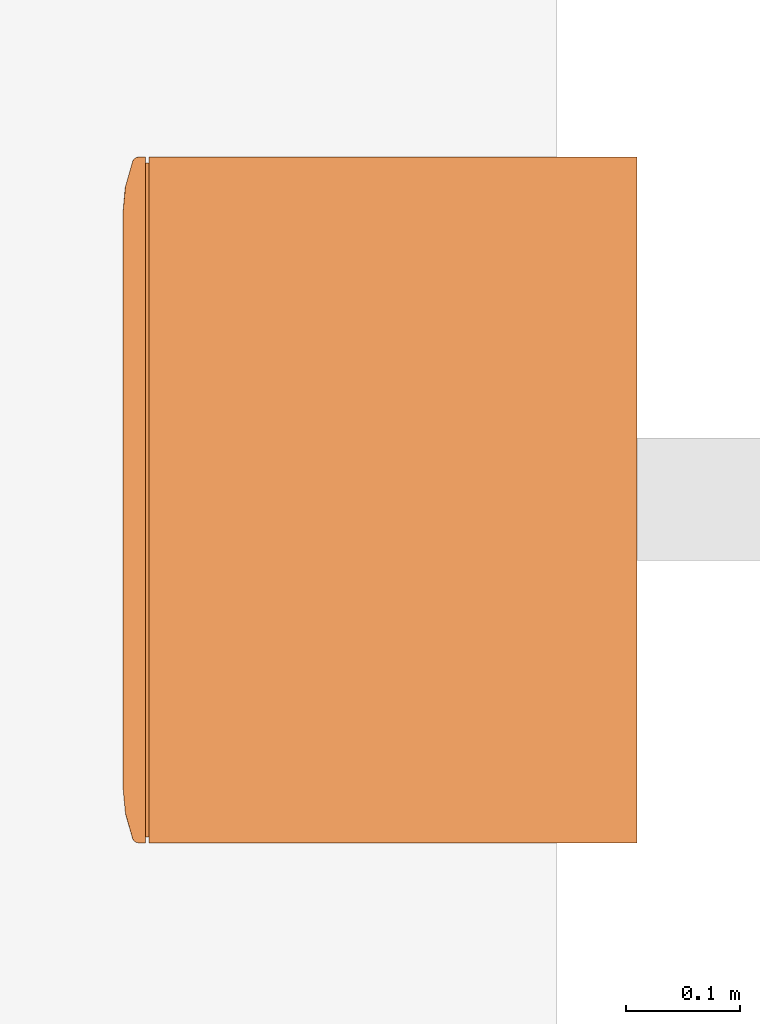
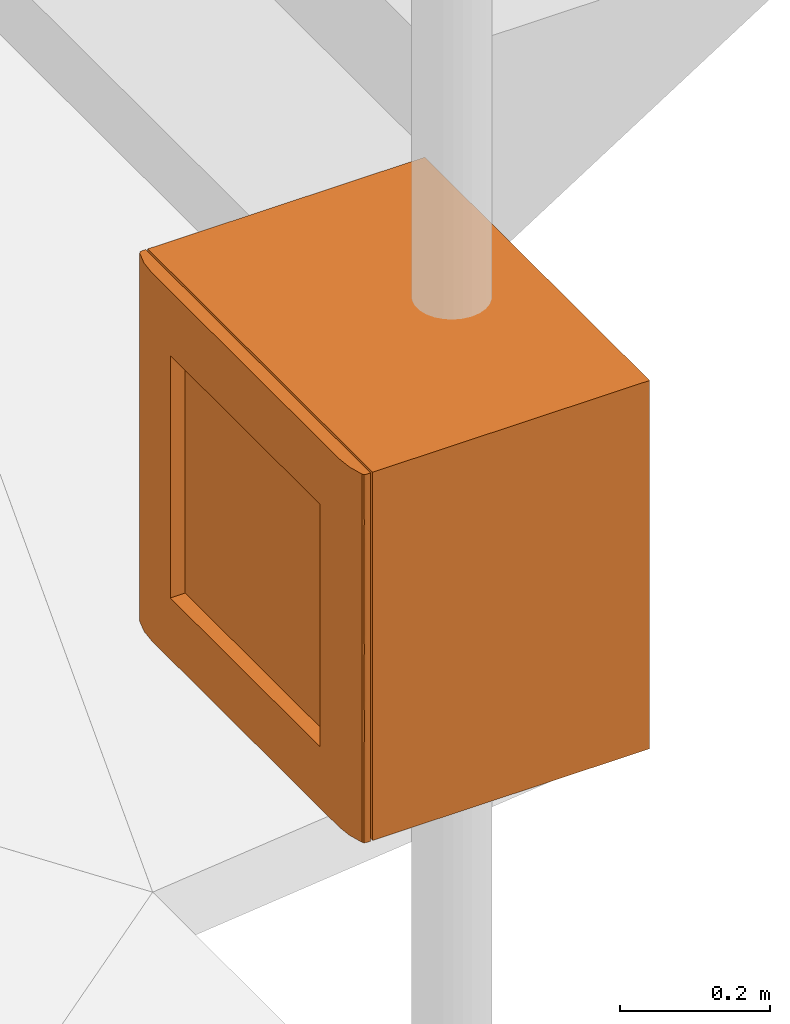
# One storey, part 6 of 6: 1 proxy.
"""IFC2X3 building model written with IfcOpenShell, lengths in metres."""

from ifc_helpers import new_model, entity, si_unit, converted_unit, derived_unit, direction, frame, origin, place, context, subcontext, project, spatial, faceted_brep, source, transform, mapped, material, type_object, type_shapes, element, save


model = new_model("IFC2X3")

# Units and contexts
model_context = context("Model", 3, precision=1e-05, world=origin(), true_north=direction((6.12303176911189e-17, 1.0)))
body_context = subcontext(model_context, "Body", "Model", "MODEL_VIEW")
ifc_project = project(units=[si_unit("LENGTHUNIT", "METRE"), si_unit("AREAUNIT", "SQUARE_METRE"), si_unit("VOLUMEUNIT", "CUBIC_METRE"), converted_unit("PLANEANGLEUNIT", "DEGREE", entity("IfcRatioMeasure", 0.0174532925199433), si_unit("PLANEANGLEUNIT", "RADIAN"), dimensions=[0, 0, 0, 0, 0, 0, 0]), si_unit("MASSUNIT", "GRAM", prefix="KILO"), derived_unit("MASSDENSITYUNIT", [(si_unit("MASSUNIT", "GRAM", prefix="KILO"), 1), (si_unit("LENGTHUNIT", "METRE"), -3)]), derived_unit("MOMENTOFINERTIAUNIT", [(si_unit("LENGTHUNIT", "METRE"), 4)]), si_unit("TIMEUNIT", "SECOND"), si_unit("FREQUENCYUNIT", "HERTZ"), si_unit("THERMODYNAMICTEMPERATUREUNIT", "DEGREE_CELSIUS"), derived_unit("THERMALTRANSMITTANCEUNIT", [(si_unit("MASSUNIT", "GRAM", prefix="KILO"), 1), (si_unit("THERMODYNAMICTEMPERATUREUNIT", "KELVIN"), -1), (si_unit("TIMEUNIT", "SECOND"), -3)]), derived_unit("VOLUMETRICFLOWRATEUNIT", [(si_unit("LENGTHUNIT", "METRE"), 3), (si_unit("TIMEUNIT", "SECOND"), -1)]), si_unit("ELECTRICCURRENTUNIT", "AMPERE"), si_unit("ELECTRICVOLTAGEUNIT", "VOLT"), si_unit("POWERUNIT", "WATT"), si_unit("FORCEUNIT", "NEWTON", prefix="KILO"), si_unit("ILLUMINANCEUNIT", "LUX"), si_unit("LUMINOUSFLUXUNIT", "LUMEN"), si_unit("LUMINOUSINTENSITYUNIT", "CANDELA"), derived_unit("USERDEFINED", [(si_unit("MASSUNIT", "GRAM", prefix="KILO"), -1), (si_unit("LENGTHUNIT", "METRE"), -2), (si_unit("TIMEUNIT", "SECOND"), 3), (si_unit("LUMINOUSFLUXUNIT", "LUMEN"), 1)]), derived_unit("LINEARVELOCITYUNIT", [(si_unit("LENGTHUNIT", "METRE"), 1), (si_unit("TIMEUNIT", "SECOND"), -1)]), si_unit("PRESSUREUNIT", "PASCAL"), derived_unit("USERDEFINED", [(si_unit("LENGTHUNIT", "METRE"), -2), (si_unit("MASSUNIT", "GRAM", prefix="KILO"), 1), (si_unit("TIMEUNIT", "SECOND"), -2)]), derived_unit("LINEARFORCEUNIT", [(si_unit("MASSUNIT", "GRAM", prefix="KILO"), 1), (si_unit("LENGTHUNIT", "METRE"), 1), (si_unit("TIMEUNIT", "SECOND"), -2), (si_unit("LENGTHUNIT", "METRE"), -1)]), derived_unit("PLANARFORCEUNIT", [(si_unit("MASSUNIT", "GRAM", prefix="KILO"), 1), (si_unit("LENGTHUNIT", "METRE"), 1), (si_unit("TIMEUNIT", "SECOND"), -2), (si_unit("LENGTHUNIT", "METRE"), -2)])], contexts=[model_context])

# Site, building, storey
site_placement = place(None, origin())
site = spatial("IfcSite", under=ifc_project, at=site_placement, Name="Default", CompositionType="ELEMENT")
building_placement = place(site_placement, origin())
building = spatial("IfcBuilding", under=site, at=building_placement, CompositionType="ELEMENT")
storey_placement = place(building_placement, origin())
storey = spatial("IfcBuildingStorey", under=building, at=storey_placement, Name="Niveau 00", CompositionType="ELEMENT", Elevation=0.0)

# Proxy
ifc_material = material(Name="rouge")
building_element_proxy_type = type_object("IfcBuildingElementProxyType", Name="GAZ:#01", PredefinedType="NOTDEFINED", material=ifc_material)
shared_shape = source(origin(), body_context, "Body", "Brep", [
    faceted_brep([(0.3, 0.0, 0.6), (0.3, -0.427000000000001, 0.6), (0.3, -0.427000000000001, 0.0), (0.3, 0.0, 0.0), (0.3, -0.430000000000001, 0.6), (0.3, -0.436619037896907, 0.6), (0.3, -0.436619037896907, 0.580480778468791), (0.3, -0.436619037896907, 0.560961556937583), (0.3, -0.436619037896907, 0.541442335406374), (0.3, -0.436619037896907, 0.521923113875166), (0.3, -0.436619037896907, 0.502403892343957), (0.3, -0.436619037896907, 0.482884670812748), (0.3, -0.436619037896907, 0.46336544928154), (0.3, -0.436619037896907, 0.443846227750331), (0.3, -0.436619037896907, 0.407884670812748), (0.3, -0.436619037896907, 0.371923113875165), (0.3, -0.436619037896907, 0.335961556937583), (0.3, -0.436619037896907, 0.3), (0.3, -0.436619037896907, 0.2625), (0.3, -0.436619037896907, 0.225), (0.3, -0.436619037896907, 0.1875), (0.3, -0.436619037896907, 0.15), (0.3, -0.436619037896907, 0.1125), (0.3, -0.436619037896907, 0.075), (0.3, -0.436619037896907, 0.0390384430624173), (0.3, -0.436619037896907, 0.0195192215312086), (0.3, -0.436619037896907, 0.0), (0.3, -0.430000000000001, 0.0), (-0.3, -0.4366190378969, 0.6), (-0.3, -0.429999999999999, 0.6), (-0.3, -0.429999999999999, 0.0), (-0.3, -0.4366190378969, 0.0), (-0.299999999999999, -0.4366190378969, 0.0195191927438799), (-0.299999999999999, -0.4366190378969, 0.0390385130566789), (-0.299999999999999, -0.4366190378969, 0.0585577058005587), (-0.299999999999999, -0.4366190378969, 0.0780768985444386), (-0.299999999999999, -0.4366190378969, 0.0975960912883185), (-0.299999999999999, -0.4366190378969, 0.117115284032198), (-0.299999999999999, -0.4366190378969, 0.136634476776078), (-0.299999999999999, -0.4366190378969, 0.156153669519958), (-0.299999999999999, -0.4366190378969, 0.175672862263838), (-0.299999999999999, -0.4366190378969, 0.195192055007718), (-0.299999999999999, -0.4366190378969, 0.214711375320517), (-0.299999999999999, -0.4366190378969, 0.234230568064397), (-0.299999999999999, -0.4366190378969, 0.253749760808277), (-0.299999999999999, -0.4366190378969, 0.273269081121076), (-0.299999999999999, -0.4366190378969, 0.292788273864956), (-0.299999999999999, -0.4366190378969, 0.312307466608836), (-0.299999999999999, -0.4366190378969, 0.348269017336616), (-0.299999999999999, -0.4366190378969, 0.384230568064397), (-0.299999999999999, -0.4366190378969, 0.420192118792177), (-0.299999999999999, -0.4366190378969, 0.456153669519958), (-0.299999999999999, -0.4366190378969, 0.492115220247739), (-0.299999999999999, -0.4366190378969, 0.52807677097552), (-0.299999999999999, -0.4366190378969, 0.564038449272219), (-0.3, -0.426999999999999, 0.6), (-0.3, 0.0, 0.6), (-0.3, 0.0, 0.0), (-0.3, -0.426999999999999, 0.0), (0.299123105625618, -0.439447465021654, 0.6), (-0.299123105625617, -0.439447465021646, 0.6), (-0.296799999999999, -0.441283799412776, 0.6), (-0.273802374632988, -0.447802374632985, 0.6), (-0.249999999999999, -0.449999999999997, 0.6), (0.249999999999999, -0.449999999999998, 0.6), (0.273802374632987, -0.447802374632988, 0.6), (0.296799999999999, -0.441283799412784, 0.6), (0.299123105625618, -0.439447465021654, 0.0), (0.296799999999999, -0.441283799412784, 0.0), (0.273802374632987, -0.447802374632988, 0.0), (0.25, -0.449999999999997, 0.0), (-0.249999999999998, -0.449999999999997, 0.0), (-0.273802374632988, -0.447802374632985, 0.0), (-0.296799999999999, -0.441283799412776, 0.0), (-0.299123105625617, -0.439447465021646, 0.0), (-0.200000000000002, -0.449999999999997, 0.495000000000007), (0.199999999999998, -0.449999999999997, 0.495000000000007), (-0.249999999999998, -0.449999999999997, 0.400942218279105), (-0.249999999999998, -0.449999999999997, 0.20188443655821), (-0.200000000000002, -0.449999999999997, 0.1), (0.199999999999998, -0.449999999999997, 0.1), (0.25, -0.449999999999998, 0.299999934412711), (-0.296799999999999, -0.441283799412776, 0.580480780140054), (-0.296799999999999, -0.441283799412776, 0.560961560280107), (-0.296799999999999, -0.441283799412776, 0.541442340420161), (-0.296799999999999, -0.441283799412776, 0.521923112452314), (-0.296799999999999, -0.441283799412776, 0.485961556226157), (-0.296799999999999, -0.441283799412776, 0.45), (-0.296799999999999, -0.441283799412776, 0.431250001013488), (-0.296799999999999, -0.441283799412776, 0.412499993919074), (-0.296799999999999, -0.441283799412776, 0.37499999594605), (-0.296799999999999, -0.441283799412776, 0.337499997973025), (-0.296799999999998, -0.441283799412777, 0.3), (-0.296799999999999, -0.441283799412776, 0.262500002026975), (-0.296799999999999, -0.441283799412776, 0.22500000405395), (-0.296799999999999, -0.441283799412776, 0.206250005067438), (-0.296799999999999, -0.441283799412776, 0.187500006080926), (-0.296799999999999, -0.441283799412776, 0.15), (-0.296799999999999, -0.441283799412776, 0.132019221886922), (-0.296799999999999, -0.441283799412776, 0.114038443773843), (-0.296799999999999, -0.441283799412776, 0.078076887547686), (-0.296799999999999, -0.441283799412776, 0.0585576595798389), (-0.296799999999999, -0.441283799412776, 0.0390384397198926), (-0.296799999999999, -0.441283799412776, 0.0195192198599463), (-0.271791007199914, -0.448160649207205, 0.301413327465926), (-0.299217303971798, -0.439304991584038, 0.25020461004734), (-0.299209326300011, -0.439317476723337, 0.224471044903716), (-0.299158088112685, -0.439395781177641, 0.52191271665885), (-0.299030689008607, -0.439577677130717, 0.496937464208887), (-0.299203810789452, -0.439326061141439, 0.302547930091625), (-0.299243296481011, -0.439263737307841, 0.327556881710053), (-0.2990755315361, -0.439515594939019, 0.570721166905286), (-0.299285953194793, -0.439194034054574, 0.474134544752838), (-0.299073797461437, -0.43951803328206, 0.543722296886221), (-0.299123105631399, -0.439447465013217, 0.0292788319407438), (-0.29912310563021, -0.43944746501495, 0.0576010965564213), (-0.299123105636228, -0.439447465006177, 0.0790126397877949), (-0.299024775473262, -0.439585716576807, 0.272680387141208), (-0.299042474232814, -0.439561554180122, 0.421874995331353), (-0.299000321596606, -0.439618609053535, 0.396097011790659), (-0.299178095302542, -0.439365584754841, 0.148197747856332), (-0.29933700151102, -0.439107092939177, 0.127770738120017), (-0.299031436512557, -0.439576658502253, 0.170288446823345), (-0.299042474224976, -0.43956155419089, 0.196874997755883), (-0.299128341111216, -0.439439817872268, 0.452618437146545), (-0.298958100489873, -0.43967410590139, 0.350810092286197), (-0.299224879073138, -0.439293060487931, 0.373516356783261), (-0.299169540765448, -0.43937855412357, 0.107355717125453), (0.275807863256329, -0.44741253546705, 0.3014133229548), (0.296799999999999, -0.441283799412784, 0.400942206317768), (0.296799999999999, -0.441283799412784, 0.404807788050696), (0.296799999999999, -0.441283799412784, 0.424327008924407), (0.296799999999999, -0.441283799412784, 0.443846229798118), (0.296799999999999, -0.441283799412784, 0.463365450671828), (0.296799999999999, -0.441283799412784, 0.482884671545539), (0.296799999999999, -0.441283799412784, 0.50240389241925), (0.296799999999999, -0.441283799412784, 0.521923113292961), (0.296799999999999, -0.441283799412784, 0.541442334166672), (0.296799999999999, -0.441283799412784, 0.560961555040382), (0.296799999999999, -0.441283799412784, 0.580480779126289), (0.296799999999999, -0.441283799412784, 0.0195192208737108), (0.296799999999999, -0.441283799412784, 0.0390384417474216), (0.296799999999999, -0.441283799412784, 0.0585576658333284), (0.296799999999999, -0.441283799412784, 0.0780768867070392), (0.296799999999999, -0.441283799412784, 0.110961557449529), (0.296799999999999, -0.441283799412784, 0.14384622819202), (0.296799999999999, -0.441283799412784, 0.179807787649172), (0.296799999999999, -0.441283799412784, 0.197788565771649), (0.296799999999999, -0.441283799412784, 0.201884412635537), (0.296799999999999, -0.441283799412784, 0.215769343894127), (0.296799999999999, -0.441283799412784, 0.251730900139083), (0.296799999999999, -0.441283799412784, 0.269711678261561), (0.296799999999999, -0.441283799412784, 0.287692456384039), (0.296799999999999, -0.441283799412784, 0.30721167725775), (0.296799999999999, -0.441283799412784, 0.326730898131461), (0.296799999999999, -0.441283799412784, 0.346250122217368), (0.296799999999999, -0.441283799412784, 0.365769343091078), (0.296799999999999, -0.441283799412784, 0.385288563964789), (0.299186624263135, -0.439352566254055, 0.395048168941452), (0.299123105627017, -0.439447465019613, 0.425865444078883), (0.299074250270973, -0.439517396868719, 0.373066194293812), (0.299123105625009, -0.439447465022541, 0.0292788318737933), (0.299144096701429, -0.439416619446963, 0.0570192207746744), (0.299097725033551, -0.439484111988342, 0.149128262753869), (0.299077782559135, -0.439512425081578, 0.127403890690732), (0.298962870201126, -0.439667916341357, 0.340334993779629), (0.299123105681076, -0.439447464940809, 0.570721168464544), (0.2991231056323, -0.439447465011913, 0.502403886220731), (0.298975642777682, -0.439651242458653, 0.482884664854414), (0.299123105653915, -0.439447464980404, 0.542398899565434), (0.299049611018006, -0.439551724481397, 0.260721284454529), (0.299293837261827, -0.439180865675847, 0.316971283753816), (0.299171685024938, -0.439375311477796, 0.0945192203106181), (0.299123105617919, -0.439447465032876, 0.463365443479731), (0.299266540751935, -0.439226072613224, 0.17321324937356), (0.298962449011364, -0.439668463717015, 0.235253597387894), (0.299321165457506, -0.439134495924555, 0.192647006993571), (0.299227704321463, -0.439288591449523, 0.522401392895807), (0.299100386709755, -0.439480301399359, 0.294833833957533), (0.29926031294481, -0.439236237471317, 0.212077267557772), (0.295, -0.427000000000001, 0.00499999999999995), (0.295, -0.427000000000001, 0.595), (0.295, -0.430000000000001, 0.595), (0.295, -0.430000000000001, 0.00499999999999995), (-0.295, -0.426999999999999, 0.00499999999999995), (-0.295, -0.429999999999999, 0.00499999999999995), (-0.295, -0.426999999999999, 0.595), (-0.295, -0.429999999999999, 0.595), (-0.200000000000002, -0.426999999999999, 0.1), (0.199999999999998, -0.427, 0.1), (0.199999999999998, -0.427, 0.495000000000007), (-0.200000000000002, -0.426999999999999, 0.495000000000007)], [[[0, 1, 2, 3]], [[4, 5, 6, 7, 8, 9, 10, 11, 12, 13, 14, 15, 16, 17, 18, 19, 20, 21, 22, 23, 24, 25, 26, 27]], [[28, 29, 30, 31, 32, 33, 34, 35, 36, 37, 38, 39, 40, 41, 42, 43, 44, 45, 46, 47, 48, 49, 50, 51, 52, 53, 54]], [[55, 56, 57, 58]], [[59, 5, 4, 29, 28, 60, 61, 62, 63, 64, 65, 66]], [[1, 0, 56, 55]], [[31, 30, 27, 26, 67, 68, 69, 70, 71, 72, 73, 74]], [[58, 57, 3, 2]], [[56, 0, 3, 57]], [[63, 75, 76]], [[75, 63, 77]], [[76, 64, 63]], [[75, 77, 78]], [[75, 78, 71]], [[71, 79, 75]], [[79, 71, 80]], [[70, 80, 71]], [[76, 70, 81]], [[80, 70, 76]], [[76, 81, 64]], [[62, 61, 82, 83, 84, 85, 86, 87, 88, 89, 90, 91, 92]], [[72, 92, 93, 94, 95, 96, 97, 98, 99, 100, 101, 102, 103, 73]], [[104, 62, 92]], [[77, 63, 62]], [[71, 78, 72]], [[78, 104, 72]], [[78, 77, 104]], [[62, 104, 77]], [[72, 104, 92]], [[105, 106, 94]], [[107, 108, 85]], [[109, 110, 47]], [[84, 107, 85]], [[28, 54, 111]], [[112, 87, 86]], [[83, 111, 113]], [[114, 115, 116, 36, 35, 34, 33, 32, 31, 74]], [[44, 117, 46, 45]], [[118, 119, 89]], [[60, 111, 82]], [[120, 38, 121]], [[114, 74, 73, 103, 102, 101, 100, 116, 115]], [[82, 61, 60]], [[111, 54, 113]], [[60, 28, 111]], [[122, 96, 123]], [[95, 106, 123]], [[110, 109, 92]], [[118, 124, 50]], [[48, 125, 126]], [[42, 106, 43]], [[82, 111, 83]], [[113, 54, 53]], [[107, 113, 53]], [[107, 84, 113]], [[122, 120, 97]], [[116, 100, 127]], [[112, 51, 124]], [[48, 110, 125]], [[51, 112, 52]], [[109, 117, 92]], [[106, 105, 43]], [[112, 124, 87]], [[50, 119, 118]], [[96, 95, 123]], [[89, 88, 118]], [[123, 42, 41, 40]], [[95, 94, 106]], [[123, 40, 122]], [[120, 122, 39]], [[97, 96, 122]], [[123, 106, 42]], [[105, 94, 93]], [[117, 105, 93]], [[117, 44, 105]], [[93, 92, 117]], [[117, 109, 46]], [[47, 46, 109]], [[110, 92, 91]], [[125, 110, 91]], [[48, 47, 110]], [[91, 90, 125]], [[126, 90, 119]], [[37, 127, 121]], [[37, 121, 38]], [[120, 39, 38]], [[53, 52, 107]], [[108, 52, 112]], [[99, 127, 100]], [[116, 127, 36]], [[36, 127, 37]], [[98, 121, 99]], [[120, 98, 97]], [[98, 120, 121]], [[121, 127, 99]], [[84, 83, 113]], [[108, 112, 86]], [[85, 108, 86]], [[107, 52, 108]], [[51, 50, 124]], [[124, 88, 87]], [[124, 118, 88]], [[119, 50, 49]], [[126, 119, 49]], [[90, 89, 119]], [[48, 126, 49]], [[125, 90, 126]], [[40, 39, 122]], [[44, 43, 105]], [[65, 64, 81]], [[70, 69, 81]], [[128, 65, 81]], [[65, 129, 130, 131, 132, 133, 134, 135, 136, 137, 138, 139, 66]], [[69, 68, 140, 141, 142, 143, 144, 145, 146, 147, 148]], [[148, 128, 69]], [[128, 148, 149, 150, 151, 152, 153, 154, 155, 156, 157, 129]], [[65, 128, 129]], [[69, 128, 81]], [[158, 159, 130]], [[160, 15, 158]], [[161, 24, 162]], [[163, 145, 164]], [[163, 164, 21]], [[15, 160, 165]], [[24, 23, 162]], [[166, 7, 6]], [[167, 168, 11]], [[166, 138, 169]], [[170, 151, 150]], [[171, 154, 153]], [[167, 11, 10]], [[7, 166, 169]], [[6, 59, 166]], [[172, 22, 164]], [[140, 68, 67, 161, 141]], [[167, 136, 135]], [[139, 59, 66]], [[159, 173, 133, 132, 131, 130]], [[144, 143, 172]], [[162, 143, 142, 141]], [[163, 174, 146]], [[175, 19, 18]], [[146, 176, 147]], [[133, 168, 135, 134]], [[168, 133, 173]], [[59, 139, 166]], [[6, 5, 59]], [[25, 24, 161, 67, 26]], [[14, 13, 159]], [[169, 138, 137, 136]], [[177, 8, 169]], [[162, 23, 172]], [[141, 161, 162]], [[160, 157, 156]], [[165, 154, 171]], [[17, 171, 178]], [[18, 170, 175]], [[17, 178, 18]], [[175, 179, 19]], [[139, 138, 166]], [[164, 145, 144]], [[162, 172, 143]], [[23, 22, 172]], [[172, 164, 144]], [[21, 164, 22]], [[174, 21, 20]], [[146, 145, 163]], [[173, 159, 13, 12, 11]], [[167, 10, 177]], [[177, 136, 167]], [[8, 7, 169]], [[158, 130, 129, 157]], [[158, 14, 159]], [[15, 14, 158]], [[152, 151, 178, 153]], [[17, 16, 171]], [[165, 171, 16]], [[15, 165, 16]], [[165, 156, 155, 154]], [[153, 178, 171]], [[170, 150, 175]], [[151, 170, 178]], [[178, 170, 18]], [[150, 149, 175]], [[179, 175, 149]], [[146, 174, 176]], [[20, 19, 179]], [[21, 174, 163]], [[179, 149, 148, 147]], [[176, 174, 20]], [[20, 179, 176]], [[147, 176, 179]], [[8, 177, 10, 9]], [[136, 177, 169]], [[11, 168, 173]], [[135, 168, 167]], [[157, 160, 158]], [[165, 160, 156]], [[180, 181, 182, 183]], [[184, 180, 183, 185]], [[186, 184, 185, 187]], [[184, 186, 55]], [[55, 58, 184]], [[180, 184, 58]], [[181, 55, 186]], [[180, 1, 181]], [[55, 181, 1]], [[1, 180, 2]], [[58, 2, 180]], [[188, 189, 190, 191]], [[181, 186, 187, 182]], [[187, 185, 30]], [[30, 29, 187]], [[182, 187, 29]], [[183, 30, 185]], [[182, 27, 183]], [[30, 183, 27]], [[27, 182, 4]], [[29, 4, 182]], [[188, 79, 80, 189]], [[189, 80, 76, 190]], [[191, 190, 76, 75]], [[188, 191, 75, 79]]]),
])
type_shapes(building_element_proxy_type, [shared_shape])
proxy_placement = place(storey_placement, frame((-25.7739891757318, 9.91975159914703, 1.14), z_axis=(0.0, 0.0, 1.0), x_axis=(0.0, -1.0, 0.0)))
element("IfcBuildingElementProxy", 1, at=proxy_placement, inside=storey, type_object=building_element_proxy_type, material=ifc_material, Name="GAZ:#01", ObjectType="GAZ:#01", context=body_context, shape_type="MappedRepresentation", body=[
    mapped(shared_shape, transform((0.0, 0.0, 0.0), scale=1.0)),
])

save(model, "model.ifc")
